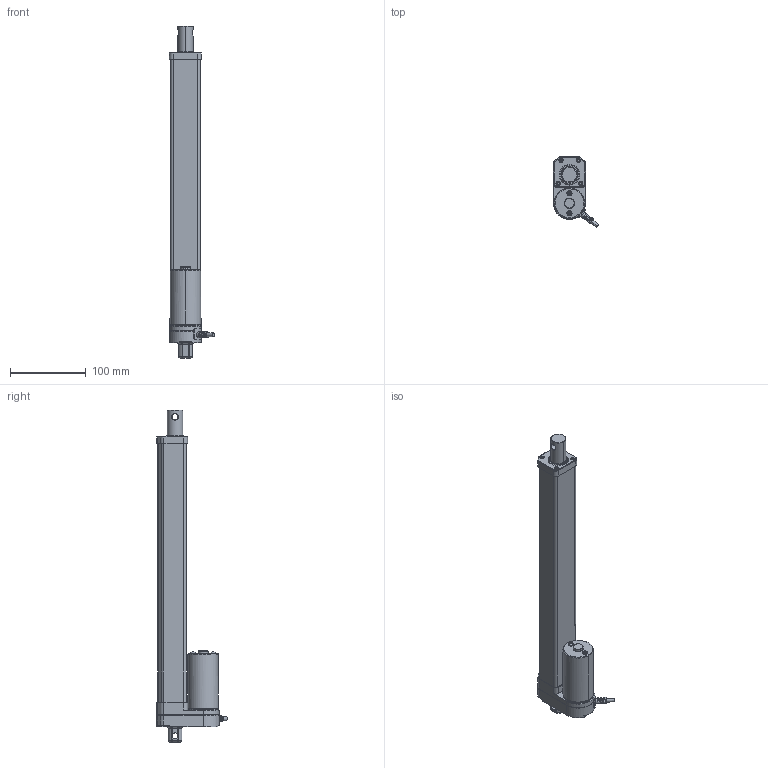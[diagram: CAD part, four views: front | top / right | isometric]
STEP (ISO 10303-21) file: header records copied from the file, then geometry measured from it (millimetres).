
FILE_DESCRIPTION (( 'STEP AP203' ), '1' );
FILE_NAME ('LD36-Standard-FC1.STEP', '2022-07-05T00:59:10', ( '' ), ( '' ), 'SwSTEP 2.0', 'SolidWorks 2020', '' );
FILE_SCHEMA (( 'CONFIG_CONTROL_DESIGN' ));
Length unit declared in the file: millimetre
Products named in the file (3): LD36-Standard-FC1; LD36-2; LD36-1
Assembly tree (2 placements, depth 2):
  LD36-Standard-FC1
    LD36-1
    LD36-2
Bounding box: 59.6 x 93.02 x 437.5 mm (x, y, z)
Volume: 14767 mm3; surface area: 145488.7 mm2
Topology: 1 solids, 12 shells, 301 faces, 871 edges, 588 vertices
Faces by surface type: plane 116, cylinder 114, bspline 33, cone 30, torus 8
Entity records: 12284 total; most frequent: CARTESIAN_POINT 4245, DIRECTION 1634, ORIENTED_EDGE 1519, EDGE_CURVE 868, AXIS2_PLACEMENT_3D 611, VERTEX_POINT 588, LINE 412, VECTOR 412
